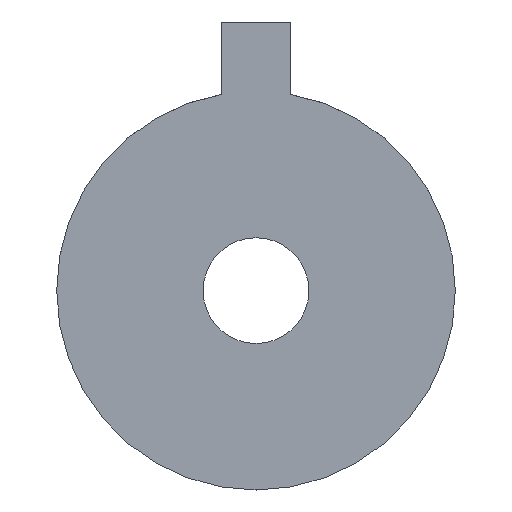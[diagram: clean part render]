
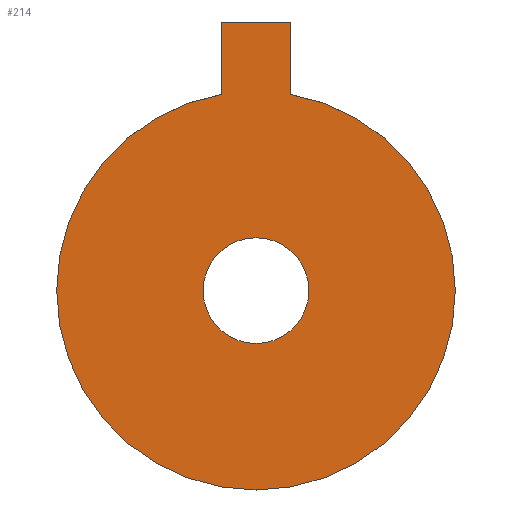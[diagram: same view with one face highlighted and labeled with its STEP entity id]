
A CAD part, front view. The second image highlights one B-rep face of the part: STEP entity #214.
In plain terms, the highlighted planar face has unit normal (0, -1, 0).
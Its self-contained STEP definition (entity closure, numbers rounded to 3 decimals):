
#21 = EDGE_CURVE('',#22,#24,#26,.T.);
#22 = VERTEX_POINT('',#23);
#23 = CARTESIAN_POINT('',(11.5,-9.,0.));
#24 = VERTEX_POINT('',#25);
#25 = CARTESIAN_POINT('',(-2.,-9.,11.325));
#26 = SURFACE_CURVE('',#27,(#32,#44),.PCURVE_S1.);
#27 = CIRCLE('',#28,11.5);
#28 = AXIS2_PLACEMENT_3D('',#29,#30,#31);
#29 = CARTESIAN_POINT('',(0.,-9.,0.));
#30 = DIRECTION('',(-0.,1.,0.));
#31 = DIRECTION('',(1.,0.,0.));
#32 = PCURVE('',#33,#38);
#33 = CYLINDRICAL_SURFACE('',#34,11.5);
#34 = AXIS2_PLACEMENT_3D('',#35,#36,#37);
#35 = CARTESIAN_POINT('',(0.,-9.,0.));
#36 = DIRECTION('',(0.,-1.,-0.));
#37 = DIRECTION('',(1.,0.,0.));
#38 = DEFINITIONAL_REPRESENTATION('',(#39),#43);
#39 = LINE('',#40,#41);
#40 = CARTESIAN_POINT('',(-0.,0.));
#41 = VECTOR('',#42,1.);
#42 = DIRECTION('',(-1.,0.));
#43 = ( GEOMETRIC_REPRESENTATION_CONTEXT(2) 
PARAMETRIC_REPRESENTATION_CONTEXT() REPRESENTATION_CONTEXT('2D SPACE',''
  ) );
#44 = PCURVE('',#45,#50);
#45 = PLANE('',#46);
#46 = AXIS2_PLACEMENT_3D('',#47,#48,#49);
#47 = CARTESIAN_POINT('',(0.,-9.,0.));
#48 = DIRECTION('',(0.,1.,0.));
#49 = DIRECTION('',(0.,-0.,1.));
#50 = DEFINITIONAL_REPRESENTATION('',(#51),#55);
#51 = CIRCLE('',#52,11.5);
#52 = AXIS2_PLACEMENT_2D('',#53,#54);
#53 = CARTESIAN_POINT('',(0.,0.));
#54 = DIRECTION('',(0.,1.));
#55 = ( GEOMETRIC_REPRESENTATION_CONTEXT(2) 
PARAMETRIC_REPRESENTATION_CONTEXT() REPRESENTATION_CONTEXT('2D SPACE',''
  ) );
#108 = EDGE_CURVE('',#109,#22,#111,.T.);
#109 = VERTEX_POINT('',#110);
#110 = CARTESIAN_POINT('',(2.,-9.,11.325));
#111 = SURFACE_CURVE('',#112,(#117,#124),.PCURVE_S1.);
#112 = CIRCLE('',#113,11.5);
#113 = AXIS2_PLACEMENT_3D('',#114,#115,#116);
#114 = CARTESIAN_POINT('',(0.,-9.,0.));
#115 = DIRECTION('',(-0.,1.,0.));
#116 = DIRECTION('',(1.,0.,0.));
#117 = PCURVE('',#33,#118);
#118 = DEFINITIONAL_REPRESENTATION('',(#119),#123);
#119 = LINE('',#120,#121);
#120 = CARTESIAN_POINT('',(-0.,0.));
#121 = VECTOR('',#122,1.);
#122 = DIRECTION('',(-1.,0.));
#123 = ( GEOMETRIC_REPRESENTATION_CONTEXT(2) 
PARAMETRIC_REPRESENTATION_CONTEXT() REPRESENTATION_CONTEXT('2D SPACE',''
  ) );
#124 = PCURVE('',#45,#125);
#125 = DEFINITIONAL_REPRESENTATION('',(#126),#130);
#126 = CIRCLE('',#127,11.5);
#127 = AXIS2_PLACEMENT_2D('',#128,#129);
#128 = CARTESIAN_POINT('',(0.,0.));
#129 = DIRECTION('',(0.,1.));
#130 = ( GEOMETRIC_REPRESENTATION_CONTEXT(2) 
PARAMETRIC_REPRESENTATION_CONTEXT() REPRESENTATION_CONTEXT('2D SPACE',''
  ) );
#147 = PLANE('',#148);
#148 = AXIS2_PLACEMENT_3D('',#149,#150,#151);
#149 = CARTESIAN_POINT('',(2.,-9.,9.));
#150 = DIRECTION('',(1.,0.,0.));
#151 = DIRECTION('',(0.,0.,1.));
#204 = PLANE('',#205);
#205 = AXIS2_PLACEMENT_3D('',#206,#207,#208);
#206 = CARTESIAN_POINT('',(-2.,-9.,9.));
#207 = DIRECTION('',(1.,0.,0.));
#208 = DIRECTION('',(0.,0.,1.));
#214 = ADVANCED_FACE('',(#215,#291),#45,.F.);
#215 = FACE_BOUND('',#216,.F.);
#216 = EDGE_LOOP('',(#217,#218,#219,#242,#270));
#217 = ORIENTED_EDGE('',*,*,#108,.T.);
#218 = ORIENTED_EDGE('',*,*,#21,.T.);
#219 = ORIENTED_EDGE('',*,*,#220,.T.);
#220 = EDGE_CURVE('',#24,#221,#223,.T.);
#221 = VERTEX_POINT('',#222);
#222 = CARTESIAN_POINT('',(-2.,-9.,15.5));
#223 = SURFACE_CURVE('',#224,(#228,#235),.PCURVE_S1.);
#224 = LINE('',#225,#226);
#225 = CARTESIAN_POINT('',(-2.,-9.,9.));
#226 = VECTOR('',#227,1.);
#227 = DIRECTION('',(0.,0.,1.));
#228 = PCURVE('',#45,#229);
#229 = DEFINITIONAL_REPRESENTATION('',(#230),#234);
#230 = LINE('',#231,#232);
#231 = CARTESIAN_POINT('',(9.,-2.));
#232 = VECTOR('',#233,1.);
#233 = DIRECTION('',(1.,0.));
#234 = ( GEOMETRIC_REPRESENTATION_CONTEXT(2) 
PARAMETRIC_REPRESENTATION_CONTEXT() REPRESENTATION_CONTEXT('2D SPACE',''
  ) );
#235 = PCURVE('',#204,#236);
#236 = DEFINITIONAL_REPRESENTATION('',(#237),#241);
#237 = LINE('',#238,#239);
#238 = CARTESIAN_POINT('',(0.,0.));
#239 = VECTOR('',#240,1.);
#240 = DIRECTION('',(1.,0.));
#241 = ( GEOMETRIC_REPRESENTATION_CONTEXT(2) 
PARAMETRIC_REPRESENTATION_CONTEXT() REPRESENTATION_CONTEXT('2D SPACE',''
  ) );
#242 = ORIENTED_EDGE('',*,*,#243,.T.);
#243 = EDGE_CURVE('',#221,#244,#246,.T.);
#244 = VERTEX_POINT('',#245);
#245 = CARTESIAN_POINT('',(2.,-9.,15.5));
#246 = SURFACE_CURVE('',#247,(#251,#258),.PCURVE_S1.);
#247 = LINE('',#248,#249);
#248 = CARTESIAN_POINT('',(-2.,-9.,15.5));
#249 = VECTOR('',#250,1.);
#250 = DIRECTION('',(1.,0.,0.));
#251 = PCURVE('',#45,#252);
#252 = DEFINITIONAL_REPRESENTATION('',(#253),#257);
#253 = LINE('',#254,#255);
#254 = CARTESIAN_POINT('',(15.5,-2.));
#255 = VECTOR('',#256,1.);
#256 = DIRECTION('',(0.,1.));
#257 = ( GEOMETRIC_REPRESENTATION_CONTEXT(2) 
PARAMETRIC_REPRESENTATION_CONTEXT() REPRESENTATION_CONTEXT('2D SPACE',''
  ) );
#258 = PCURVE('',#259,#264);
#259 = PLANE('',#260);
#260 = AXIS2_PLACEMENT_3D('',#261,#262,#263);
#261 = CARTESIAN_POINT('',(-2.,-9.,15.5));
#262 = DIRECTION('',(0.,0.,1.));
#263 = DIRECTION('',(1.,0.,0.));
#264 = DEFINITIONAL_REPRESENTATION('',(#265),#269);
#265 = LINE('',#266,#267);
#266 = CARTESIAN_POINT('',(0.,0.));
#267 = VECTOR('',#268,1.);
#268 = DIRECTION('',(1.,0.));
#269 = ( GEOMETRIC_REPRESENTATION_CONTEXT(2) 
PARAMETRIC_REPRESENTATION_CONTEXT() REPRESENTATION_CONTEXT('2D SPACE',''
  ) );
#270 = ORIENTED_EDGE('',*,*,#271,.F.);
#271 = EDGE_CURVE('',#109,#244,#272,.T.);
#272 = SURFACE_CURVE('',#273,(#277,#284),.PCURVE_S1.);
#273 = LINE('',#274,#275);
#274 = CARTESIAN_POINT('',(2.,-9.,9.));
#275 = VECTOR('',#276,1.);
#276 = DIRECTION('',(0.,0.,1.));
#277 = PCURVE('',#45,#278);
#278 = DEFINITIONAL_REPRESENTATION('',(#279),#283);
#279 = LINE('',#280,#281);
#280 = CARTESIAN_POINT('',(9.,2.));
#281 = VECTOR('',#282,1.);
#282 = DIRECTION('',(1.,0.));
#283 = ( GEOMETRIC_REPRESENTATION_CONTEXT(2) 
PARAMETRIC_REPRESENTATION_CONTEXT() REPRESENTATION_CONTEXT('2D SPACE',''
  ) );
#284 = PCURVE('',#147,#285);
#285 = DEFINITIONAL_REPRESENTATION('',(#286),#290);
#286 = LINE('',#287,#288);
#287 = CARTESIAN_POINT('',(0.,0.));
#288 = VECTOR('',#289,1.);
#289 = DIRECTION('',(1.,0.));
#290 = ( GEOMETRIC_REPRESENTATION_CONTEXT(2) 
PARAMETRIC_REPRESENTATION_CONTEXT() REPRESENTATION_CONTEXT('2D SPACE',''
  ) );
#291 = FACE_BOUND('',#292,.F.);
#292 = EDGE_LOOP('',(#293));
#293 = ORIENTED_EDGE('',*,*,#294,.T.);
#294 = EDGE_CURVE('',#295,#295,#297,.T.);
#295 = VERTEX_POINT('',#296);
#296 = CARTESIAN_POINT('',(3.05,-9.,0.));
#297 = SURFACE_CURVE('',#298,(#303,#314),.PCURVE_S1.);
#298 = CIRCLE('',#299,3.05);
#299 = AXIS2_PLACEMENT_3D('',#300,#301,#302);
#300 = CARTESIAN_POINT('',(0.,-9.,0.));
#301 = DIRECTION('',(0.,-1.,-0.));
#302 = DIRECTION('',(1.,0.,0.));
#303 = PCURVE('',#45,#304);
#304 = DEFINITIONAL_REPRESENTATION('',(#305),#313);
#305 = ( BOUNDED_CURVE() B_SPLINE_CURVE(2,(#306,#307,#308,#309,#310,#311
,#312),.UNSPECIFIED.,.T.,.F.) B_SPLINE_CURVE_WITH_KNOTS((1,2,2,2,2,1),(
    -2.094,0.,2.094,4.189,6.283,
8.378),.UNSPECIFIED.) CURVE() GEOMETRIC_REPRESENTATION_ITEM() 
RATIONAL_B_SPLINE_CURVE((1.,0.5,1.,0.5,1.,0.5,1.)) REPRESENTATION_ITEM(
  '') );
#306 = CARTESIAN_POINT('',(0.,3.05));
#307 = CARTESIAN_POINT('',(5.283,3.05));
#308 = CARTESIAN_POINT('',(2.641,-1.525));
#309 = CARTESIAN_POINT('',(0.,-6.1));
#310 = CARTESIAN_POINT('',(-2.641,-1.525));
#311 = CARTESIAN_POINT('',(-5.283,3.05));
#312 = CARTESIAN_POINT('',(0.,3.05));
#313 = ( GEOMETRIC_REPRESENTATION_CONTEXT(2) 
PARAMETRIC_REPRESENTATION_CONTEXT() REPRESENTATION_CONTEXT('2D SPACE',''
  ) );
#314 = PCURVE('',#315,#320);
#315 = CYLINDRICAL_SURFACE('',#316,3.05);
#316 = AXIS2_PLACEMENT_3D('',#317,#318,#319);
#317 = CARTESIAN_POINT('',(0.,-10.,0.));
#318 = DIRECTION('',(0.,-1.,-0.));
#319 = DIRECTION('',(1.,0.,0.));
#320 = DEFINITIONAL_REPRESENTATION('',(#321),#325);
#321 = LINE('',#322,#323);
#322 = CARTESIAN_POINT('',(-6.283,-1.));
#323 = VECTOR('',#324,1.);
#324 = DIRECTION('',(1.,-0.));
#325 = ( GEOMETRIC_REPRESENTATION_CONTEXT(2) 
PARAMETRIC_REPRESENTATION_CONTEXT() REPRESENTATION_CONTEXT('2D SPACE',''
  ) );
